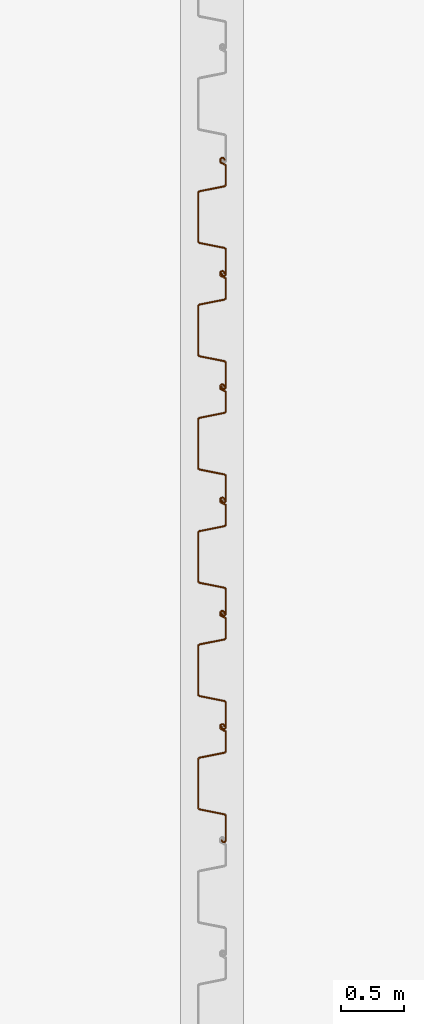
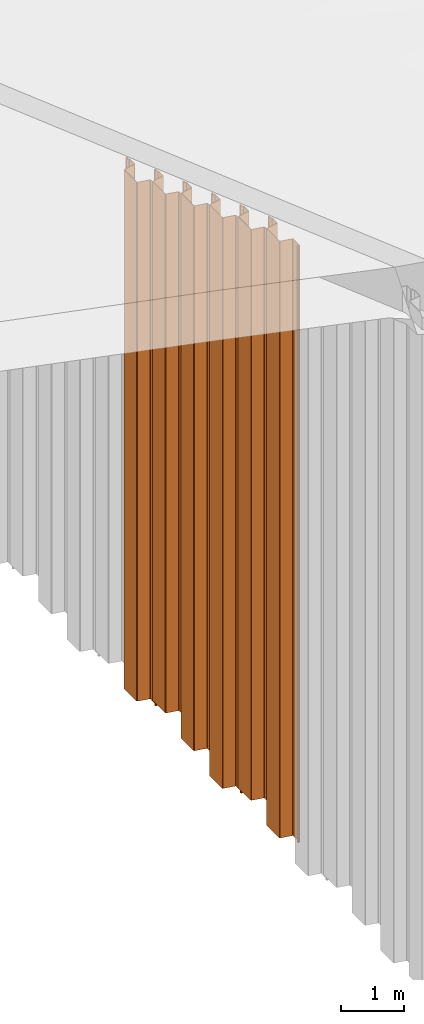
# One storey, part 12 of 32: 6 proxies.
"""IFC2X3 building model written with IfcOpenShell, lengths in millimetres."""

from ifc_helpers import new_model, entity, si_unit, converted_unit, derived_unit, direction, frame, frame_2d, origin, place, context, subcontext, project, spatial, polyline, circle_curve, parameter, trimmed, segment, composite_curve, outline, extrude, source, transform, mapped, type_object, type_shapes, element, save


model = new_model("IFC2X3")

# Units and contexts
model_context = context("Model", 3, precision=0.01, world=origin(), true_north=direction((6.12303176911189e-17, 1.0)))
body_context = subcontext(model_context, "Body", "Model", "MODEL_VIEW")
ifc_project = project(units=[si_unit("LENGTHUNIT", "METRE", prefix="MILLI"), si_unit("AREAUNIT", "SQUARE_METRE"), si_unit("VOLUMEUNIT", "CUBIC_METRE"), converted_unit("PLANEANGLEUNIT", "DEGREE", entity("IfcRatioMeasure", 0.0174532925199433), si_unit("PLANEANGLEUNIT", "RADIAN"), dimensions=[0, 0, 0, 0, 0, 0, 0]), si_unit("MASSUNIT", "GRAM", prefix="KILO"), derived_unit("MASSDENSITYUNIT", [(si_unit("MASSUNIT", "GRAM", prefix="KILO"), 1), (si_unit("LENGTHUNIT", "METRE"), -3)]), si_unit("TIMEUNIT", "SECOND"), si_unit("FREQUENCYUNIT", "HERTZ"), si_unit("THERMODYNAMICTEMPERATUREUNIT", "DEGREE_CELSIUS"), derived_unit("THERMALTRANSMITTANCEUNIT", [(si_unit("MASSUNIT", "GRAM", prefix="KILO"), 1), (si_unit("THERMODYNAMICTEMPERATUREUNIT", "KELVIN"), -1), (si_unit("TIMEUNIT", "SECOND"), -3)]), derived_unit("VOLUMETRICFLOWRATEUNIT", [(si_unit("LENGTHUNIT", "METRE"), 3), (si_unit("TIMEUNIT", "SECOND"), -1)]), si_unit("ELECTRICCURRENTUNIT", "AMPERE"), si_unit("ELECTRICVOLTAGEUNIT", "VOLT"), si_unit("POWERUNIT", "WATT"), si_unit("FORCEUNIT", "NEWTON", prefix="KILO"), si_unit("ILLUMINANCEUNIT", "LUX"), si_unit("LUMINOUSFLUXUNIT", "LUMEN"), si_unit("LUMINOUSINTENSITYUNIT", "CANDELA"), derived_unit("USERDEFINED", [(si_unit("MASSUNIT", "GRAM", prefix="KILO"), -1), (si_unit("LENGTHUNIT", "METRE"), -2), (si_unit("TIMEUNIT", "SECOND"), 3), (si_unit("LUMINOUSFLUXUNIT", "LUMEN"), 1)]), derived_unit("LINEARVELOCITYUNIT", [(si_unit("LENGTHUNIT", "METRE"), 1), (si_unit("TIMEUNIT", "SECOND"), -1)]), si_unit("PRESSUREUNIT", "PASCAL"), derived_unit("USERDEFINED", [(si_unit("LENGTHUNIT", "METRE"), -2), (si_unit("MASSUNIT", "GRAM", prefix="KILO"), 1), (si_unit("TIMEUNIT", "SECOND"), -2)])], contexts=[model_context])

# Site, building, storey
site_placement = place(None, origin())
site = spatial("IfcSite", under=ifc_project, at=site_placement, Name="Default", CompositionType="ELEMENT")
building_placement = place(site_placement, origin())
building = spatial("IfcBuilding", under=site, at=building_placement, CompositionType="ELEMENT")
storey_placement = place(building_placement, origin())
storey = spatial("IfcBuildingStorey", under=building, at=storey_placement, Name="矢板", CompositionType="ELEMENT", Elevation=0.0)

# Proxies
building_element_proxy_type_1 = type_object("IfcBuildingElementProxyType", Name="鋼矢板10H型", PredefinedType="NOTDEFINED")
shared_shape_1 = source(origin(), body_context, "Body", "SweptSolid", [
    extrude(outline(composite_curve([segment(trimmed(circle_curve(frame_2d((85.3662976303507, 306.644432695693), x_axis=(0.422618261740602, 0.906307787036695)), 13.885714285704), [parameter(24.9999999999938)], [parameter(90.0000000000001)], True, "PARAMETER"), True, "CONTINUOUS"), segment(polyline([(72.7815666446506, 312.512789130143), (9.8129512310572, 177.476157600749)]), True, "CONTINUOUS"), segment(trimmed(circle_curve(frame_2d((29.3891994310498, 168.347603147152), x_axis=(0.422618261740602, 0.906307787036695)), 21.6), [parameter(90.0000000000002)], [parameter(168.69006752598)], True, "PARAMETER"), True, "CONTINUOUS"), segment(polyline([(16.598697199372, 150.941769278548), (175.329723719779, 34.2998683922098)]), True, "CONTINUOUS"), segment(trimmed(circle_curve(frame_2d((168.93447260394, 25.596951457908), x_axis=(0.422618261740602, 0.906307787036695)), 10.7999999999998), [parameter(270.0)], [parameter(348.690067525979)], True, "PARAMETER"), False, "CONTINUOUS"), segment(polyline([(178.722596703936, 21.0326742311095), (18.2974003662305, -323.000269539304)]), True, "CONTINUOUS"), segment(trimmed(circle_curve(frame_2d((8.50927626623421, -318.435992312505), x_axis=(0.422618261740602, 0.906307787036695)), 10.8), [parameter(191.30993247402)], [parameter(269.999999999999)], True, "PARAMETER"), False, "CONTINUOUS"), segment(polyline([(5.95324328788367, -328.929166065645), (-185.429973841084, -282.310113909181)]), True, "CONTINUOUS"), segment(trimmed(circle_curve(frame_2d((-190.542039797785, -303.296461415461), x_axis=(0.422618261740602, 0.906307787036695)), 21.6000000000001), [parameter(11.3099324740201)], [parameter(90.0000000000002)], True, "PARAMETER"), True, "CONTINUOUS"), segment(polyline([(-210.118287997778, -294.167906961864), (-290.330886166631, -466.184378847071)]), True, "CONTINUOUS"), segment(trimmed(circle_curve(frame_2d((-270.754637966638, -475.312933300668), x_axis=(0.422618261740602, 0.906307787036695)), 21.6), [parameter(90.0000000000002)], [parameter(269.999999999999)], True, "PARAMETER"), True, "CONTINUOUS"), segment(polyline([(-251.178389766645, -484.441487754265), (-249.065298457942, -479.909948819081)]), True, "CONTINUOUS"), segment(polyline([(-249.065298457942, -479.909948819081), (-258.853422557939, -475.345671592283)]), True, "CONTINUOUS"), segment(polyline([(-258.853422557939, -475.345671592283), (-260.966513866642, -479.877210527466)]), True, "CONTINUOUS"), segment(trimmed(circle_curve(frame_2d((-270.754637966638, -475.312933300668), x_axis=(0.422618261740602, 0.906307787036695)), 10.8), [parameter(90.0000000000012)], [parameter(270.0)], True, "PARAMETER"), False, "CONTINUOUS"), segment(polyline([(-280.542762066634, -470.748656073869), (-200.330163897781, -298.732184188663)]), True, "CONTINUOUS"), segment(trimmed(circle_curve(frame_2d((-190.542039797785, -303.296461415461), x_axis=(0.422618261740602, 0.906307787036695)), 10.8), [parameter(11.3099324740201)], [parameter(89.9999999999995)], True, "PARAMETER"), False, "CONTINUOUS"), segment(polyline([(-187.986006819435, -292.803287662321), (3.39721030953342, -339.422339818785)]), True, "CONTINUOUS"), segment(trimmed(circle_curve(frame_2d((8.50927626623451, -318.435992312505), x_axis=(0.422618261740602, 0.906307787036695)), 21.6), [parameter(191.30993247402)], [parameter(270.0)], True, "PARAMETER"), True, "CONTINUOUS"), segment(polyline([(28.0855244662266, -327.564546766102), (188.510720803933, 16.4683970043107)]), True, "CONTINUOUS"), segment(trimmed(circle_curve(frame_2d((168.93447260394, 25.5969514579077), x_axis=(0.422618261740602, 0.906307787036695)), 21.6), [parameter(270.0)], [parameter(348.69006752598)], True, "PARAMETER"), True, "CONTINUOUS"), segment(polyline([(181.724974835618, 43.0027853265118), (22.9939483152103, 159.644686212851)]), True, "CONTINUOUS"), segment(trimmed(circle_curve(frame_2d((29.3891994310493, 168.347603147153), x_axis=(0.422618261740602, 0.906307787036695)), 10.7999999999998), [parameter(89.9999999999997)], [parameter(168.690067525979)], True, "PARAMETER"), False, "CONTINUOUS"), segment(polyline([(19.6010753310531, 172.911880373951), (82.5696907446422, 307.948511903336)]), True, "CONTINUOUS"), segment(trimmed(circle_curve(frame_2d((85.3662976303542, 306.64443269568), x_axis=(0.422618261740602, 0.906307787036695)), 3.08571428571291), [parameter(25.0000000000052)], [parameter(90.0000000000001)], True, "PARAMETER"), False, "CONTINUOUS"), segment(polyline([(85.3662976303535, 309.730146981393), (122.220231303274, 309.730146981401)]), True, "CONTINUOUS"), segment(trimmed(circle_curve(frame_2d((122.220231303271, 323.615861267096), x_axis=(0.422618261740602, 0.906307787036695)), 13.8857142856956), [parameter(205.000000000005)], [parameter(270.0)], True, "PARAMETER"), True, "CONTINUOUS"), segment(polyline([(134.804962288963, 317.747504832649), (141.079261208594, 331.202782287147)]), True, "CONTINUOUS"), segment(trimmed(circle_curve(frame_2d((121.503013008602, 340.331336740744), x_axis=(0.422618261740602, 0.906307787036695)), 21.6), [parameter(270.0)], [parameter(90.0000000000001)], True, "PARAMETER"), True, "CONTINUOUS"), segment(polyline([(101.926764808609, 349.459891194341), (99.8136734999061, 344.928352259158)]), True, "CONTINUOUS"), segment(polyline([(99.8136734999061, 344.928352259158), (109.601797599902, 340.364075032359)]), True, "CONTINUOUS"), segment(polyline([(109.601797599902, 340.364075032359), (111.714888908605, 344.895613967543)]), True, "CONTINUOUS"), segment(trimmed(circle_curve(frame_2d((121.503013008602, 340.331336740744), x_axis=(0.422618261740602, 0.906307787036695)), 10.8), [parameter(270.0)], [parameter(89.9999999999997)], True, "PARAMETER"), False, "CONTINUOUS"), segment(polyline([(131.291137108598, 335.767059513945), (125.01683818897, 322.311782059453)]), True, "CONTINUOUS"), segment(trimmed(circle_curve(frame_2d((122.220231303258, 323.615861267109), x_axis=(0.422618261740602, 0.906307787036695)), 3.08571428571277), [parameter(204.999999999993)], [parameter(270.0)], True, "PARAMETER"), False, "CONTINUOUS"), segment(polyline([(122.220231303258, 320.530146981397), (85.3662976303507, 320.530146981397)]), True, "CONTINUOUS")], self_intersect=False)), frame((95.205667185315, -48.8888888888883, -10000.0), z_axis=(0.0, 0.0, -1.0), x_axis=(0.4226182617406, 0.906307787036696, 0.0)), (0.0, 0.0, -1.0), 10000.0),
])
type_shapes(building_element_proxy_type_1, [shared_shape_1])
for number, where, z_axis, x_axis in (
    (1, (-128208.0, 16451.0, 11993.0), (0.0, 0.0, 1.0), (0.0, 1.0, 0.0)),
    (2, (-128208.0, 15551.0, 12311.0), (0.0, 0.0, 1.0), (0.0, 1.0, 0.0)),
):
    element("IfcBuildingElementProxy", number, at=place(storey_placement, frame(where, z_axis=z_axis, x_axis=x_axis)), inside=storey, type_object=building_element_proxy_type_1, Name="鋼矢板10H型:鋼矢板10H型", ObjectType="鋼矢板10H型:鋼矢板10H型", context=body_context, shape_type="MappedRepresentation", body=[
        mapped(shared_shape_1, transform((0.0, 0.0, 0.0), scale=1.0)),
    ])
building_element_proxy_type_2 = type_object("IfcBuildingElementProxyType", Name="鋼矢板10H型", PredefinedType="NOTDEFINED")
shared_shape_2 = source(origin(), body_context, "Body", "SweptSolid", [
    extrude(outline(composite_curve([segment(trimmed(circle_curve(frame_2d((85.3662976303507, 306.644432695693), x_axis=(0.422618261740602, 0.906307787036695)), 13.885714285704), [parameter(24.9999999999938)], [parameter(90.0000000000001)], True, "PARAMETER"), True, "CONTINUOUS"), segment(polyline([(72.7815666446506, 312.512789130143), (9.8129512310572, 177.476157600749)]), True, "CONTINUOUS"), segment(trimmed(circle_curve(frame_2d((29.3891994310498, 168.347603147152), x_axis=(0.422618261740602, 0.906307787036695)), 21.6), [parameter(90.0000000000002)], [parameter(168.69006752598)], True, "PARAMETER"), True, "CONTINUOUS"), segment(polyline([(16.598697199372, 150.941769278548), (175.329723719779, 34.2998683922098)]), True, "CONTINUOUS"), segment(trimmed(circle_curve(frame_2d((168.93447260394, 25.596951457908), x_axis=(0.422618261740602, 0.906307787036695)), 10.7999999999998), [parameter(270.0)], [parameter(348.690067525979)], True, "PARAMETER"), False, "CONTINUOUS"), segment(polyline([(178.722596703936, 21.0326742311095), (18.2974003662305, -323.000269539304)]), True, "CONTINUOUS"), segment(trimmed(circle_curve(frame_2d((8.50927626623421, -318.435992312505), x_axis=(0.422618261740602, 0.906307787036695)), 10.8), [parameter(191.30993247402)], [parameter(269.999999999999)], True, "PARAMETER"), False, "CONTINUOUS"), segment(polyline([(5.95324328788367, -328.929166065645), (-185.429973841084, -282.310113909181)]), True, "CONTINUOUS"), segment(trimmed(circle_curve(frame_2d((-190.542039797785, -303.296461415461), x_axis=(0.422618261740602, 0.906307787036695)), 21.6000000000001), [parameter(11.3099324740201)], [parameter(90.0000000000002)], True, "PARAMETER"), True, "CONTINUOUS"), segment(polyline([(-210.118287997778, -294.167906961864), (-290.330886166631, -466.184378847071)]), True, "CONTINUOUS"), segment(trimmed(circle_curve(frame_2d((-270.754637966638, -475.312933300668), x_axis=(0.422618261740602, 0.906307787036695)), 21.6), [parameter(90.0000000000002)], [parameter(269.999999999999)], True, "PARAMETER"), True, "CONTINUOUS"), segment(polyline([(-251.178389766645, -484.441487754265), (-249.065298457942, -479.909948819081)]), True, "CONTINUOUS"), segment(polyline([(-249.065298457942, -479.909948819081), (-258.853422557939, -475.345671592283)]), True, "CONTINUOUS"), segment(polyline([(-258.853422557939, -475.345671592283), (-260.966513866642, -479.877210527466)]), True, "CONTINUOUS"), segment(trimmed(circle_curve(frame_2d((-270.754637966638, -475.312933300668), x_axis=(0.422618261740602, 0.906307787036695)), 10.8), [parameter(90.0000000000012)], [parameter(270.0)], True, "PARAMETER"), False, "CONTINUOUS"), segment(polyline([(-280.542762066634, -470.748656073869), (-200.330163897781, -298.732184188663)]), True, "CONTINUOUS"), segment(trimmed(circle_curve(frame_2d((-190.542039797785, -303.296461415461), x_axis=(0.422618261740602, 0.906307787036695)), 10.8), [parameter(11.3099324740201)], [parameter(89.9999999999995)], True, "PARAMETER"), False, "CONTINUOUS"), segment(polyline([(-187.986006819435, -292.803287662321), (3.39721030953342, -339.422339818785)]), True, "CONTINUOUS"), segment(trimmed(circle_curve(frame_2d((8.50927626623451, -318.435992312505), x_axis=(0.422618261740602, 0.906307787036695)), 21.6), [parameter(191.30993247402)], [parameter(270.0)], True, "PARAMETER"), True, "CONTINUOUS"), segment(polyline([(28.0855244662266, -327.564546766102), (188.510720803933, 16.4683970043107)]), True, "CONTINUOUS"), segment(trimmed(circle_curve(frame_2d((168.93447260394, 25.5969514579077), x_axis=(0.422618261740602, 0.906307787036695)), 21.6), [parameter(270.0)], [parameter(348.69006752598)], True, "PARAMETER"), True, "CONTINUOUS"), segment(polyline([(181.724974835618, 43.0027853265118), (22.9939483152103, 159.644686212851)]), True, "CONTINUOUS"), segment(trimmed(circle_curve(frame_2d((29.3891994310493, 168.347603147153), x_axis=(0.422618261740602, 0.906307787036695)), 10.7999999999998), [parameter(89.9999999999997)], [parameter(168.690067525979)], True, "PARAMETER"), False, "CONTINUOUS"), segment(polyline([(19.6010753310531, 172.911880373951), (82.5696907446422, 307.948511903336)]), True, "CONTINUOUS"), segment(trimmed(circle_curve(frame_2d((85.3662976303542, 306.64443269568), x_axis=(0.422618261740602, 0.906307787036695)), 3.08571428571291), [parameter(25.0000000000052)], [parameter(90.0000000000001)], True, "PARAMETER"), False, "CONTINUOUS"), segment(polyline([(85.3662976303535, 309.730146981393), (122.220231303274, 309.730146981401)]), True, "CONTINUOUS"), segment(trimmed(circle_curve(frame_2d((122.220231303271, 323.615861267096), x_axis=(0.422618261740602, 0.906307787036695)), 13.8857142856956), [parameter(205.000000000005)], [parameter(270.0)], True, "PARAMETER"), True, "CONTINUOUS"), segment(polyline([(134.804962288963, 317.747504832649), (141.079261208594, 331.202782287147)]), True, "CONTINUOUS"), segment(trimmed(circle_curve(frame_2d((121.503013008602, 340.331336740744), x_axis=(0.422618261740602, 0.906307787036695)), 21.6), [parameter(270.0)], [parameter(90.0000000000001)], True, "PARAMETER"), True, "CONTINUOUS"), segment(polyline([(101.926764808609, 349.459891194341), (99.8136734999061, 344.928352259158)]), True, "CONTINUOUS"), segment(polyline([(99.8136734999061, 344.928352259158), (109.601797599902, 340.364075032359)]), True, "CONTINUOUS"), segment(polyline([(109.601797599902, 340.364075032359), (111.714888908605, 344.895613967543)]), True, "CONTINUOUS"), segment(trimmed(circle_curve(frame_2d((121.503013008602, 340.331336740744), x_axis=(0.422618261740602, 0.906307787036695)), 10.8), [parameter(270.0)], [parameter(89.9999999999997)], True, "PARAMETER"), False, "CONTINUOUS"), segment(polyline([(131.291137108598, 335.767059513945), (125.01683818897, 322.311782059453)]), True, "CONTINUOUS"), segment(trimmed(circle_curve(frame_2d((122.220231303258, 323.615861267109), x_axis=(0.422618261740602, 0.906307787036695)), 3.08571428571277), [parameter(204.999999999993)], [parameter(270.0)], True, "PARAMETER"), False, "CONTINUOUS"), segment(polyline([(122.220231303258, 320.530146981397), (85.3662976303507, 320.530146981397)]), True, "CONTINUOUS")], self_intersect=False)), frame((95.205667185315, -48.8888888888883, -10500.0), z_axis=(0.0, 0.0, -1.0), x_axis=(0.4226182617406, 0.906307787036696, 0.0)), (0.0, 0.0, -1.0), 10500.0),
])
type_shapes(building_element_proxy_type_2, [shared_shape_2])
proxy_1_placement = place(storey_placement, frame((-128208.0, 14651.0, 12630.0), z_axis=(0.0, 0.0, 1.0), x_axis=(0.0, 1.0, 0.0)))
element("IfcBuildingElementProxy", 3, at=proxy_1_placement, inside=storey, type_object=building_element_proxy_type_2, Name="鋼矢板10H型:鋼矢板10H型", ObjectType="鋼矢板10H型:鋼矢板10H型", context=body_context, shape_type="MappedRepresentation", body=[
    mapped(shared_shape_2, transform((0.0, 0.0, 0.0), scale=1.0)),
])
building_element_proxy_type_3 = type_object("IfcBuildingElementProxyType", Name="鋼矢板10H型", PredefinedType="NOTDEFINED")
shared_shape_3 = source(origin(), body_context, "Body", "SweptSolid", [
    extrude(outline(composite_curve([segment(trimmed(circle_curve(frame_2d((85.3662976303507, 306.644432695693), x_axis=(0.422618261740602, 0.906307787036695)), 13.885714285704), [parameter(24.9999999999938)], [parameter(90.0000000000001)], True, "PARAMETER"), True, "CONTINUOUS"), segment(polyline([(72.7815666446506, 312.512789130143), (9.8129512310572, 177.476157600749)]), True, "CONTINUOUS"), segment(trimmed(circle_curve(frame_2d((29.3891994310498, 168.347603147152), x_axis=(0.422618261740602, 0.906307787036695)), 21.6), [parameter(90.0000000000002)], [parameter(168.69006752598)], True, "PARAMETER"), True, "CONTINUOUS"), segment(polyline([(16.598697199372, 150.941769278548), (175.329723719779, 34.2998683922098)]), True, "CONTINUOUS"), segment(trimmed(circle_curve(frame_2d((168.93447260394, 25.596951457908), x_axis=(0.422618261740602, 0.906307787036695)), 10.7999999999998), [parameter(270.0)], [parameter(348.690067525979)], True, "PARAMETER"), False, "CONTINUOUS"), segment(polyline([(178.722596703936, 21.0326742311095), (18.2974003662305, -323.000269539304)]), True, "CONTINUOUS"), segment(trimmed(circle_curve(frame_2d((8.50927626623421, -318.435992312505), x_axis=(0.422618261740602, 0.906307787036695)), 10.8), [parameter(191.30993247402)], [parameter(269.999999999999)], True, "PARAMETER"), False, "CONTINUOUS"), segment(polyline([(5.95324328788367, -328.929166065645), (-185.429973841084, -282.310113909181)]), True, "CONTINUOUS"), segment(trimmed(circle_curve(frame_2d((-190.542039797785, -303.296461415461), x_axis=(0.422618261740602, 0.906307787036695)), 21.6000000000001), [parameter(11.3099324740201)], [parameter(90.0000000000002)], True, "PARAMETER"), True, "CONTINUOUS"), segment(polyline([(-210.118287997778, -294.167906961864), (-290.330886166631, -466.184378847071)]), True, "CONTINUOUS"), segment(trimmed(circle_curve(frame_2d((-270.754637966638, -475.312933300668), x_axis=(0.422618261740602, 0.906307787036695)), 21.6), [parameter(90.0000000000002)], [parameter(269.999999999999)], True, "PARAMETER"), True, "CONTINUOUS"), segment(polyline([(-251.178389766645, -484.441487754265), (-249.065298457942, -479.909948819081)]), True, "CONTINUOUS"), segment(polyline([(-249.065298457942, -479.909948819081), (-258.853422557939, -475.345671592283)]), True, "CONTINUOUS"), segment(polyline([(-258.853422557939, -475.345671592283), (-260.966513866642, -479.877210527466)]), True, "CONTINUOUS"), segment(trimmed(circle_curve(frame_2d((-270.754637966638, -475.312933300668), x_axis=(0.422618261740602, 0.906307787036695)), 10.8), [parameter(90.0000000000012)], [parameter(270.0)], True, "PARAMETER"), False, "CONTINUOUS"), segment(polyline([(-280.542762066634, -470.748656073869), (-200.330163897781, -298.732184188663)]), True, "CONTINUOUS"), segment(trimmed(circle_curve(frame_2d((-190.542039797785, -303.296461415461), x_axis=(0.422618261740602, 0.906307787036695)), 10.8), [parameter(11.3099324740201)], [parameter(89.9999999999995)], True, "PARAMETER"), False, "CONTINUOUS"), segment(polyline([(-187.986006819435, -292.803287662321), (3.39721030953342, -339.422339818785)]), True, "CONTINUOUS"), segment(trimmed(circle_curve(frame_2d((8.50927626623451, -318.435992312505), x_axis=(0.422618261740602, 0.906307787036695)), 21.6), [parameter(191.30993247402)], [parameter(270.0)], True, "PARAMETER"), True, "CONTINUOUS"), segment(polyline([(28.0855244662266, -327.564546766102), (188.510720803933, 16.4683970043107)]), True, "CONTINUOUS"), segment(trimmed(circle_curve(frame_2d((168.93447260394, 25.5969514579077), x_axis=(0.422618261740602, 0.906307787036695)), 21.6), [parameter(270.0)], [parameter(348.69006752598)], True, "PARAMETER"), True, "CONTINUOUS"), segment(polyline([(181.724974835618, 43.0027853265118), (22.9939483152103, 159.644686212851)]), True, "CONTINUOUS"), segment(trimmed(circle_curve(frame_2d((29.3891994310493, 168.347603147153), x_axis=(0.422618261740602, 0.906307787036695)), 10.7999999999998), [parameter(89.9999999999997)], [parameter(168.690067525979)], True, "PARAMETER"), False, "CONTINUOUS"), segment(polyline([(19.6010753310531, 172.911880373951), (82.5696907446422, 307.948511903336)]), True, "CONTINUOUS"), segment(trimmed(circle_curve(frame_2d((85.3662976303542, 306.64443269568), x_axis=(0.422618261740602, 0.906307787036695)), 3.08571428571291), [parameter(25.0000000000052)], [parameter(90.0000000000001)], True, "PARAMETER"), False, "CONTINUOUS"), segment(polyline([(85.3662976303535, 309.730146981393), (122.220231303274, 309.730146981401)]), True, "CONTINUOUS"), segment(trimmed(circle_curve(frame_2d((122.220231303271, 323.615861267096), x_axis=(0.422618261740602, 0.906307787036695)), 13.8857142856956), [parameter(205.000000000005)], [parameter(270.0)], True, "PARAMETER"), True, "CONTINUOUS"), segment(polyline([(134.804962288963, 317.747504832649), (141.079261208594, 331.202782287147)]), True, "CONTINUOUS"), segment(trimmed(circle_curve(frame_2d((121.503013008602, 340.331336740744), x_axis=(0.422618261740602, 0.906307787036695)), 21.6), [parameter(270.0)], [parameter(90.0000000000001)], True, "PARAMETER"), True, "CONTINUOUS"), segment(polyline([(101.926764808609, 349.459891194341), (99.8136734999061, 344.928352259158)]), True, "CONTINUOUS"), segment(polyline([(99.8136734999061, 344.928352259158), (109.601797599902, 340.364075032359)]), True, "CONTINUOUS"), segment(polyline([(109.601797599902, 340.364075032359), (111.714888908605, 344.895613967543)]), True, "CONTINUOUS"), segment(trimmed(circle_curve(frame_2d((121.503013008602, 340.331336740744), x_axis=(0.422618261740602, 0.906307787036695)), 10.8), [parameter(270.0)], [parameter(89.9999999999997)], True, "PARAMETER"), False, "CONTINUOUS"), segment(polyline([(131.291137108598, 335.767059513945), (125.01683818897, 322.311782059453)]), True, "CONTINUOUS"), segment(trimmed(circle_curve(frame_2d((122.220231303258, 323.615861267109), x_axis=(0.422618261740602, 0.906307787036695)), 3.08571428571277), [parameter(204.999999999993)], [parameter(270.0)], True, "PARAMETER"), False, "CONTINUOUS"), segment(polyline([(122.220231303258, 320.530146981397), (85.3662976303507, 320.530146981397)]), True, "CONTINUOUS")], self_intersect=False)), frame((95.205667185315, -48.8888888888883, -11000.0), z_axis=(0.0, 0.0, -1.0), x_axis=(0.4226182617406, 0.906307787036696, 0.0)), (0.0, 0.0, -1.0), 11000.0),
])
type_shapes(building_element_proxy_type_3, [shared_shape_3])
for number, where, z_axis, x_axis in (
    (4, (-128208.0, 13751.0, 12949.0), (0.0, 0.0, 1.0), (0.0, 1.0, 0.0)),
    (5, (-128208.0, 12851.0, 13267.0), (0.0, 0.0, 1.0), (0.0, 1.0, 0.0)),
):
    element("IfcBuildingElementProxy", number, at=place(storey_placement, frame(where, z_axis=z_axis, x_axis=x_axis)), inside=storey, type_object=building_element_proxy_type_3, Name="鋼矢板10H型:鋼矢板10H型", ObjectType="鋼矢板10H型:鋼矢板10H型", context=body_context, shape_type="MappedRepresentation", body=[
        mapped(shared_shape_3, transform((0.0, 0.0, 0.0), scale=1.0)),
    ])
building_element_proxy_type_4 = type_object("IfcBuildingElementProxyType", Name="鋼矢板10H型", PredefinedType="NOTDEFINED")
shared_shape_4 = source(origin(), body_context, "Body", "SweptSolid", [
    extrude(outline(composite_curve([segment(trimmed(circle_curve(frame_2d((85.3662976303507, 306.644432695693), x_axis=(0.422618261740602, 0.906307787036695)), 13.885714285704), [parameter(24.9999999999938)], [parameter(90.0000000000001)], True, "PARAMETER"), True, "CONTINUOUS"), segment(polyline([(72.7815666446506, 312.512789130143), (9.8129512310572, 177.476157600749)]), True, "CONTINUOUS"), segment(trimmed(circle_curve(frame_2d((29.3891994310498, 168.347603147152), x_axis=(0.422618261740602, 0.906307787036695)), 21.6), [parameter(90.0000000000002)], [parameter(168.69006752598)], True, "PARAMETER"), True, "CONTINUOUS"), segment(polyline([(16.598697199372, 150.941769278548), (175.329723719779, 34.2998683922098)]), True, "CONTINUOUS"), segment(trimmed(circle_curve(frame_2d((168.93447260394, 25.596951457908), x_axis=(0.422618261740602, 0.906307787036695)), 10.7999999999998), [parameter(270.0)], [parameter(348.690067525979)], True, "PARAMETER"), False, "CONTINUOUS"), segment(polyline([(178.722596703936, 21.0326742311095), (18.2974003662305, -323.000269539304)]), True, "CONTINUOUS"), segment(trimmed(circle_curve(frame_2d((8.50927626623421, -318.435992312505), x_axis=(0.422618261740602, 0.906307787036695)), 10.8), [parameter(191.30993247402)], [parameter(269.999999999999)], True, "PARAMETER"), False, "CONTINUOUS"), segment(polyline([(5.95324328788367, -328.929166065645), (-185.429973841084, -282.310113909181)]), True, "CONTINUOUS"), segment(trimmed(circle_curve(frame_2d((-190.542039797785, -303.296461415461), x_axis=(0.422618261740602, 0.906307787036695)), 21.6000000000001), [parameter(11.3099324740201)], [parameter(90.0000000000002)], True, "PARAMETER"), True, "CONTINUOUS"), segment(polyline([(-210.118287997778, -294.167906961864), (-290.330886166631, -466.184378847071)]), True, "CONTINUOUS"), segment(trimmed(circle_curve(frame_2d((-270.754637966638, -475.312933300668), x_axis=(0.422618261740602, 0.906307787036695)), 21.6), [parameter(90.0000000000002)], [parameter(269.999999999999)], True, "PARAMETER"), True, "CONTINUOUS"), segment(polyline([(-251.178389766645, -484.441487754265), (-249.065298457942, -479.909948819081)]), True, "CONTINUOUS"), segment(polyline([(-249.065298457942, -479.909948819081), (-258.853422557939, -475.345671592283)]), True, "CONTINUOUS"), segment(polyline([(-258.853422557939, -475.345671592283), (-260.966513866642, -479.877210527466)]), True, "CONTINUOUS"), segment(trimmed(circle_curve(frame_2d((-270.754637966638, -475.312933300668), x_axis=(0.422618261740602, 0.906307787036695)), 10.8), [parameter(90.0000000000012)], [parameter(270.0)], True, "PARAMETER"), False, "CONTINUOUS"), segment(polyline([(-280.542762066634, -470.748656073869), (-200.330163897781, -298.732184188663)]), True, "CONTINUOUS"), segment(trimmed(circle_curve(frame_2d((-190.542039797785, -303.296461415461), x_axis=(0.422618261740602, 0.906307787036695)), 10.8), [parameter(11.3099324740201)], [parameter(89.9999999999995)], True, "PARAMETER"), False, "CONTINUOUS"), segment(polyline([(-187.986006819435, -292.803287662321), (3.39721030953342, -339.422339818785)]), True, "CONTINUOUS"), segment(trimmed(circle_curve(frame_2d((8.50927626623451, -318.435992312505), x_axis=(0.422618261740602, 0.906307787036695)), 21.6), [parameter(191.30993247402)], [parameter(270.0)], True, "PARAMETER"), True, "CONTINUOUS"), segment(polyline([(28.0855244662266, -327.564546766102), (188.510720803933, 16.4683970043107)]), True, "CONTINUOUS"), segment(trimmed(circle_curve(frame_2d((168.93447260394, 25.5969514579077), x_axis=(0.422618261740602, 0.906307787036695)), 21.6), [parameter(270.0)], [parameter(348.69006752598)], True, "PARAMETER"), True, "CONTINUOUS"), segment(polyline([(181.724974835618, 43.0027853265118), (22.9939483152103, 159.644686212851)]), True, "CONTINUOUS"), segment(trimmed(circle_curve(frame_2d((29.3891994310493, 168.347603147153), x_axis=(0.422618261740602, 0.906307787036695)), 10.7999999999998), [parameter(89.9999999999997)], [parameter(168.690067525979)], True, "PARAMETER"), False, "CONTINUOUS"), segment(polyline([(19.6010753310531, 172.911880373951), (82.5696907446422, 307.948511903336)]), True, "CONTINUOUS"), segment(trimmed(circle_curve(frame_2d((85.3662976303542, 306.64443269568), x_axis=(0.422618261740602, 0.906307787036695)), 3.08571428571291), [parameter(25.0000000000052)], [parameter(90.0000000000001)], True, "PARAMETER"), False, "CONTINUOUS"), segment(polyline([(85.3662976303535, 309.730146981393), (122.220231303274, 309.730146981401)]), True, "CONTINUOUS"), segment(trimmed(circle_curve(frame_2d((122.220231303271, 323.615861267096), x_axis=(0.422618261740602, 0.906307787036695)), 13.8857142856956), [parameter(205.000000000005)], [parameter(270.0)], True, "PARAMETER"), True, "CONTINUOUS"), segment(polyline([(134.804962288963, 317.747504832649), (141.079261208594, 331.202782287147)]), True, "CONTINUOUS"), segment(trimmed(circle_curve(frame_2d((121.503013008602, 340.331336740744), x_axis=(0.422618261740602, 0.906307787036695)), 21.6), [parameter(270.0)], [parameter(90.0000000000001)], True, "PARAMETER"), True, "CONTINUOUS"), segment(polyline([(101.926764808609, 349.459891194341), (99.8136734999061, 344.928352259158)]), True, "CONTINUOUS"), segment(polyline([(99.8136734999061, 344.928352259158), (109.601797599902, 340.364075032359)]), True, "CONTINUOUS"), segment(polyline([(109.601797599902, 340.364075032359), (111.714888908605, 344.895613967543)]), True, "CONTINUOUS"), segment(trimmed(circle_curve(frame_2d((121.503013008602, 340.331336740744), x_axis=(0.422618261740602, 0.906307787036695)), 10.8), [parameter(270.0)], [parameter(89.9999999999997)], True, "PARAMETER"), False, "CONTINUOUS"), segment(polyline([(131.291137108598, 335.767059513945), (125.01683818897, 322.311782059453)]), True, "CONTINUOUS"), segment(trimmed(circle_curve(frame_2d((122.220231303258, 323.615861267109), x_axis=(0.422618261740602, 0.906307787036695)), 3.08571428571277), [parameter(204.999999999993)], [parameter(270.0)], True, "PARAMETER"), False, "CONTINUOUS"), segment(polyline([(122.220231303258, 320.530146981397), (85.3662976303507, 320.530146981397)]), True, "CONTINUOUS")], self_intersect=False)), frame((95.205667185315, -48.8888888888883, -11500.0), z_axis=(0.0, 0.0, -1.0), x_axis=(0.4226182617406, 0.906307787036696, 0.0)), (0.0, 0.0, -1.0), 11500.0),
])
type_shapes(building_element_proxy_type_4, [shared_shape_4])
proxy_2_placement = place(storey_placement, frame((-128208.0, 11951.0, 13586.0), z_axis=(0.0, 0.0, 1.0), x_axis=(0.0, 1.0, 0.0)))
element("IfcBuildingElementProxy", 6, at=proxy_2_placement, inside=storey, type_object=building_element_proxy_type_4, Name="鋼矢板10H型:鋼矢板10H型", ObjectType="鋼矢板10H型:鋼矢板10H型", context=body_context, shape_type="MappedRepresentation", body=[
    mapped(shared_shape_4, transform((0.0, 0.0, 0.0), scale=1.0)),
])

save(model, "model.ifc")
